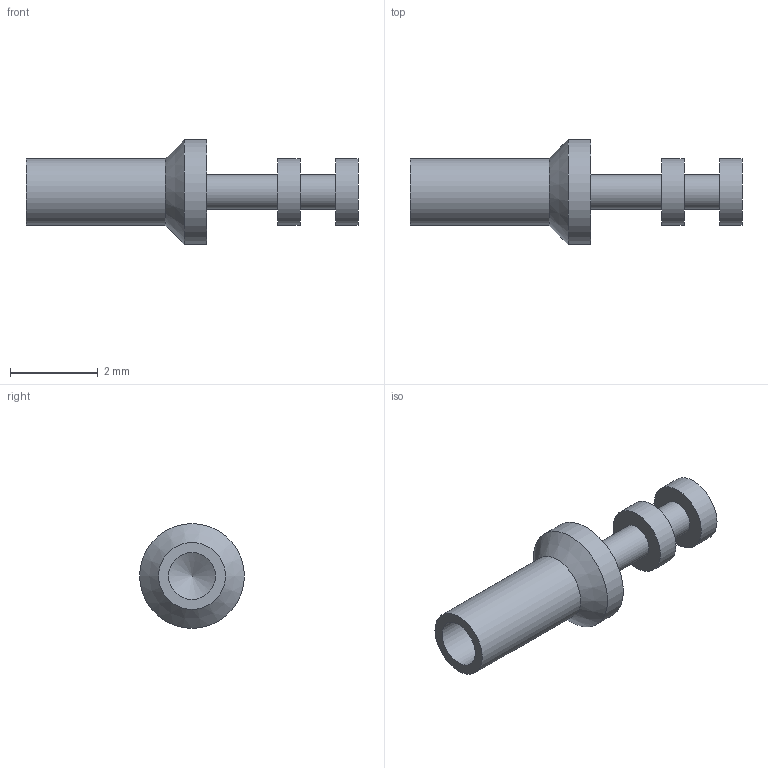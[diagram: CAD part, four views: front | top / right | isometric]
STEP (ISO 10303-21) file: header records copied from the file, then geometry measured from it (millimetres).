
FILE_DESCRIPTION(/* description */ (''),/* implementation_level */ '2;1');
FILE_NAME(/* name */ 'Z:\STEP folder\180-7337-03.ipt.stp',/* time_stamp */ '2016-12-07T16:17:55+00:00',/* author */ ('Paul Karlsons'),/* organization */ (''),/* preprocessor_version */ 'ST-DEVELOPER v15.2',/* originating_system */ 'Autodesk Inventor 2014',/* authorisation */ '');
FILE_SCHEMA (('AUTOMOTIVE_DESIGN { 1 0 10303 214 3 1 1 }'));
Length unit declared in the file: millimetre
Products named in the file (1): 180-7337-03
Bounding box: 7.57 x 2.39 x 2.39 mm (x, y, z)
Volume: 11.4 mm3; surface area: 48.9 mm2
Topology: 1 solids, 1 shells, 15 faces, 24 edges, 15 vertices
Faces by surface type: cylinder 7, plane 6, cone 2
Full cylindrical faces by diameter (mm): 0.787 x2, 1.067 x1, 1.524 x3, 2.388 x1
Entity records: 315 total; most frequent: DIRECTION 60, CARTESIAN_POINT 44, AXIS2_PLACEMENT_3D 30, EDGE_LOOP 28, ORIENTED_EDGE 28, FACE_BOUND 16, ADVANCED_FACE 15, CIRCLE 14
